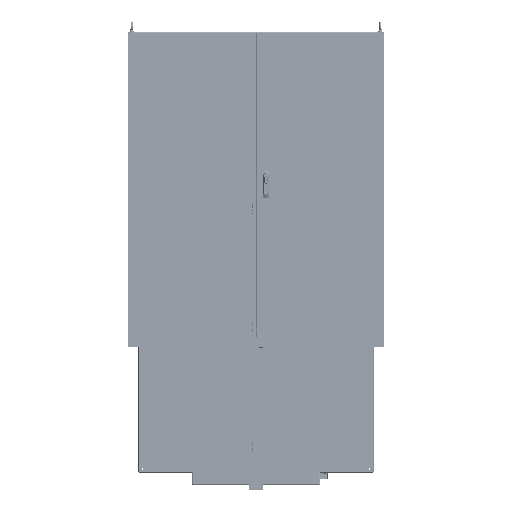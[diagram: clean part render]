
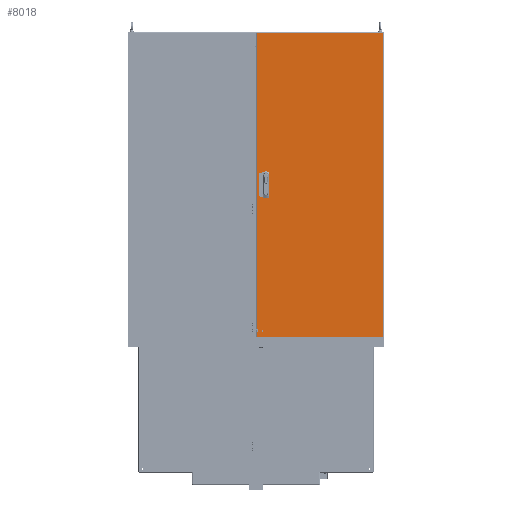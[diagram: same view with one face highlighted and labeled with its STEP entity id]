
A CAD part, front view. The second image highlights one B-rep face of the part: STEP entity #8018.
In plain terms, the highlighted planar face has unit normal (0, -1, 0).
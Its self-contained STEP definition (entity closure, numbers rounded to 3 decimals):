
#8018 = ADVANCED_FACE( '', ( #11828, #11829, #11830, #11831, #11832, #11833 ), #11834, .T. );
#11828 = FACE_BOUND( '', #18626, .T. );
#11829 = FACE_BOUND( '', #18627, .T. );
#11830 = FACE_BOUND( '', #18628, .T. );
#11831 = FACE_OUTER_BOUND( '', #18629, .T. );
#11832 = FACE_BOUND( '', #18630, .T. );
#11833 = FACE_BOUND( '', #18631, .T. );
#11834 = PLANE( '', #18632 );
#18626 = EDGE_LOOP( '', ( #33976, #33977, #33978, #33979 ) );
#18627 = EDGE_LOOP( '', ( #33980 ) );
#18628 = EDGE_LOOP( '', ( #33981, #33982, #33983, #33984 ) );
#18629 = EDGE_LOOP( '', ( #33985, #33986, #33987, #33988 ) );
#18630 = EDGE_LOOP( '', ( #33989, #33990, #33991, #33992 ) );
#18631 = EDGE_LOOP( '', ( #33993 ) );
#18632 = AXIS2_PLACEMENT_3D( '', #33994, #33995, #33996 );
#33976 = ORIENTED_EDGE( '', *, *, #53395, .F. );
#33977 = ORIENTED_EDGE( '', *, *, #53396, .F. );
#33978 = ORIENTED_EDGE( '', *, *, #53397, .F. );
#33979 = ORIENTED_EDGE( '', *, *, #53398, .F. );
#33980 = ORIENTED_EDGE( '', *, *, #53399, .T. );
#33981 = ORIENTED_EDGE( '', *, *, #53400, .F. );
#33982 = ORIENTED_EDGE( '', *, *, #53401, .F. );
#33983 = ORIENTED_EDGE( '', *, *, #53402, .F. );
#33984 = ORIENTED_EDGE( '', *, *, #53403, .F. );
#33985 = ORIENTED_EDGE( '', *, *, #53404, .T. );
#33986 = ORIENTED_EDGE( '', *, *, #53405, .F. );
#33987 = ORIENTED_EDGE( '', *, *, #53406, .F. );
#33988 = ORIENTED_EDGE( '', *, *, #53407, .F. );
#33989 = ORIENTED_EDGE( '', *, *, #53408, .T. );
#33990 = ORIENTED_EDGE( '', *, *, #53409, .T. );
#33991 = ORIENTED_EDGE( '', *, *, #53410, .T. );
#33992 = ORIENTED_EDGE( '', *, *, #53411, .T. );
#33993 = ORIENTED_EDGE( '', *, *, #53412, .T. );
#33994 = CARTESIAN_POINT( '', ( -397.701, 0., -948.531 ) );
#33995 = DIRECTION( '', ( 0., -1., 0. ) );
#33996 = DIRECTION( '', ( 0., 0., -1. ) );
#53395 = EDGE_CURVE( '', #61278, #61279, #61280, .T. );
#53396 = EDGE_CURVE( '', #61281, #61278, #61282, .T. );
#53397 = EDGE_CURVE( '', #61283, #61281, #61284, .T. );
#53398 = EDGE_CURVE( '', #61279, #61283, #61285, .T. );
#53399 = EDGE_CURVE( '', #61286, #61286, #61287, .T. );
#53400 = EDGE_CURVE( '', #61288, #61289, #61290, .T. );
#53401 = EDGE_CURVE( '', #61291, #61288, #61292, .T. );
#53402 = EDGE_CURVE( '', #61293, #61291, #61294, .T. );
#53403 = EDGE_CURVE( '', #61289, #61293, #61295, .T. );
#53404 = EDGE_CURVE( '', #61296, #61297, #61298, .T. );
#53405 = EDGE_CURVE( '', #61299, #61297, #61300, .T. );
#53406 = EDGE_CURVE( '', #61301, #61299, #61302, .T. );
#53407 = EDGE_CURVE( '', #61296, #61301, #61303, .T. );
#53408 = EDGE_CURVE( '', #61304, #61305, #61306, .T. );
#53409 = EDGE_CURVE( '', #61305, #61307, #61308, .T. );
#53410 = EDGE_CURVE( '', #61307, #61309, #61310, .T. );
#53411 = EDGE_CURVE( '', #61309, #61304, #61311, .T. );
#53412 = EDGE_CURVE( '', #61312, #61312, #61313, .T. );
#61278 = VERTEX_POINT( '', #74117 );
#61279 = VERTEX_POINT( '', #74118 );
#61280 = LINE( '', #74119, #74120 );
#61281 = VERTEX_POINT( '', #74121 );
#61282 = LINE( '', #74122, #74123 );
#61283 = VERTEX_POINT( '', #74124 );
#61284 = LINE( '', #74125, #74126 );
#61285 = LINE( '', #74127, #74128 );
#61286 = VERTEX_POINT( '', #74129 );
#61287 = CIRCLE( '', #74130, 4.013 );
#61288 = VERTEX_POINT( '', #74131 );
#61289 = VERTEX_POINT( '', #74132 );
#61290 = LINE( '', #74133, #74134 );
#61291 = VERTEX_POINT( '', #74135 );
#61292 = LINE( '', #74136, #74137 );
#61293 = VERTEX_POINT( '', #74138 );
#61294 = LINE( '', #74139, #74140 );
#61295 = LINE( '', #74141, #74142 );
#61296 = VERTEX_POINT( '', #74143 );
#61297 = VERTEX_POINT( '', #74144 );
#61298 = LINE( '', #74145, #74146 );
#61299 = VERTEX_POINT( '', #74147 );
#61300 = LINE( '', #74148, #74149 );
#61301 = VERTEX_POINT( '', #74150 );
#61302 = LINE( '', #74151, #74152 );
#61303 = LINE( '', #74153, #74154 );
#61304 = VERTEX_POINT( '', #74155 );
#61305 = VERTEX_POINT( '', #74156 );
#61306 = LINE( '', #74157, #74158 );
#61307 = VERTEX_POINT( '', #74159 );
#61308 = LINE( '', #74160, #74161 );
#61309 = VERTEX_POINT( '', #74162 );
#61310 = LINE( '', #74163, #74164 );
#61311 = LINE( '', #74165, #74166 );
#61312 = VERTEX_POINT( '', #74167 );
#61313 = CIRCLE( '', #74168, 4.013 );
#74117 = CARTESIAN_POINT( '', ( -350.183, 0., 75.006 ) );
#74118 = CARTESIAN_POINT( '', ( -350.183, 0., 24.994 ) );
#74119 = CARTESIAN_POINT( '', ( -350.183, 0., 75.006 ) );
#74120 = VECTOR( '', #94772, 1000. );
#74121 = CARTESIAN_POINT( '', ( -325.189, 0., 75.006 ) );
#74122 = CARTESIAN_POINT( '', ( -325.189, 0., 75.006 ) );
#74123 = VECTOR( '', #94773, 1000. );
#74124 = CARTESIAN_POINT( '', ( -325.189, 0., 24.994 ) );
#74125 = CARTESIAN_POINT( '', ( -325.189, 0., 24.994 ) );
#74126 = VECTOR( '', #94774, 1000. );
#74127 = CARTESIAN_POINT( '', ( -350.183, 0., 24.994 ) );
#74128 = VECTOR( '', #94775, 1000. );
#74129 = CARTESIAN_POINT( '', ( -369.664, 0., 35.001 ) );
#74130 = AXIS2_PLACEMENT_3D( '', #94776, #94777, #94778 );
#74131 = CARTESIAN_POINT( '', ( -374.198, 0., 15.875 ) );
#74132 = CARTESIAN_POINT( '', ( -374.198, 0., -15.875 ) );
#74133 = CARTESIAN_POINT( '', ( -374.198, 0., 15.875 ) );
#74134 = VECTOR( '', #94779, 1000. );
#74135 = CARTESIAN_POINT( '', ( -369.194, 0., 15.875 ) );
#74136 = CARTESIAN_POINT( '', ( -369.194, 0., 15.875 ) );
#74137 = VECTOR( '', #94780, 1000. );
#74138 = CARTESIAN_POINT( '', ( -369.194, 0., -15.875 ) );
#74139 = CARTESIAN_POINT( '', ( -369.194, 0., -15.875 ) );
#74140 = VECTOR( '', #94781, 1000. );
#74141 = CARTESIAN_POINT( '', ( -374.198, 0., -15.875 ) );
#74142 = VECTOR( '', #94782, 1000. );
#74143 = CARTESIAN_POINT( '', ( 394.957, 0., 945.788 ) );
#74144 = CARTESIAN_POINT( '', ( -394.957, 0., 945.788 ) );
#74145 = CARTESIAN_POINT( '', ( 394.957, 0., 945.788 ) );
#74146 = VECTOR( '', #94783, 1000. );
#74147 = CARTESIAN_POINT( '', ( -394.957, 0., -945.788 ) );
#74148 = CARTESIAN_POINT( '', ( -394.957, 0., -945.788 ) );
#74149 = VECTOR( '', #94784, 1000. );
#74150 = CARTESIAN_POINT( '', ( 394.957, 0., -945.788 ) );
#74151 = CARTESIAN_POINT( '', ( 394.957, 0., -945.788 ) );
#74152 = VECTOR( '', #94785, 1000. );
#74153 = CARTESIAN_POINT( '', ( 394.957, 0., 945.788 ) );
#74154 = VECTOR( '', #94786, 1000. );
#74155 = CARTESIAN_POINT( '', ( -350.183, 0., -25.019 ) );
#74156 = CARTESIAN_POINT( '', ( -325.189, 0., -25.019 ) );
#74157 = CARTESIAN_POINT( '', ( -350.183, 0., -25.019 ) );
#74158 = VECTOR( '', #94787, 1000. );
#74159 = CARTESIAN_POINT( '', ( -325.189, 0., -75.032 ) );
#74160 = CARTESIAN_POINT( '', ( -325.189, 0., -25.019 ) );
#74161 = VECTOR( '', #94788, 1000. );
#74162 = CARTESIAN_POINT( '', ( -350.183, 0., -75.032 ) );
#74163 = CARTESIAN_POINT( '', ( -325.189, 0., -75.032 ) );
#74164 = VECTOR( '', #94789, 1000. );
#74165 = CARTESIAN_POINT( '', ( -350.183, 0., -75.032 ) );
#74166 = VECTOR( '', #94790, 1000. );
#74167 = CARTESIAN_POINT( '', ( -369.664, 0., -35.001 ) );
#74168 = AXIS2_PLACEMENT_3D( '', #94791, #94792, #94793 );
#94772 = DIRECTION( '', ( 0., 0., -1. ) );
#94773 = DIRECTION( '', ( -1., 0., 0. ) );
#94774 = DIRECTION( '', ( 0., 0., 1. ) );
#94775 = DIRECTION( '', ( 1., 0., 0. ) );
#94776 = CARTESIAN_POINT( '', ( -373.678, 0., 35.001 ) );
#94777 = DIRECTION( '', ( 0., 1., 0. ) );
#94778 = DIRECTION( '', ( 1., 0., 0. ) );
#94779 = DIRECTION( '', ( 0., 0., -1. ) );
#94780 = DIRECTION( '', ( -1., 0., 0. ) );
#94781 = DIRECTION( '', ( 0., 0., 1. ) );
#94782 = DIRECTION( '', ( 1., 0., 0. ) );
#94783 = DIRECTION( '', ( -1., 0., 0. ) );
#94784 = DIRECTION( '', ( 0., 0., 1. ) );
#94785 = DIRECTION( '', ( -1., 0., 0. ) );
#94786 = DIRECTION( '', ( 0., 0., -1. ) );
#94787 = DIRECTION( '', ( 1., 0., 0. ) );
#94788 = DIRECTION( '', ( 0., 0., -1. ) );
#94789 = DIRECTION( '', ( -1., 0., 0. ) );
#94790 = DIRECTION( '', ( 0., 0., 1. ) );
#94791 = CARTESIAN_POINT( '', ( -373.678, 0., -35.001 ) );
#94792 = DIRECTION( '', ( 0., 1., 0. ) );
#94793 = DIRECTION( '', ( 1., 0., 0. ) );
